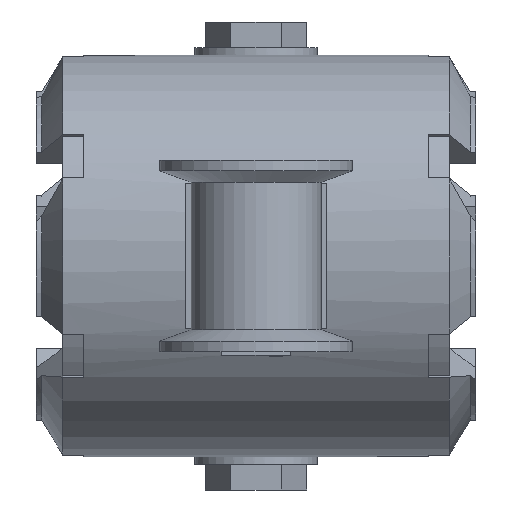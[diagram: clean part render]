
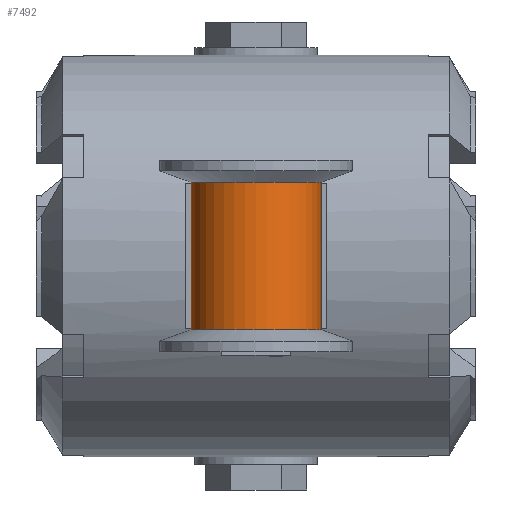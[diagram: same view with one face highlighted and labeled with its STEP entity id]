
A CAD part, front view. The second image highlights one B-rep face of the part: STEP entity #7492.
In plain terms, the highlighted cylindrical face has radius 17 mm (diameter 34 mm), a full revolution.
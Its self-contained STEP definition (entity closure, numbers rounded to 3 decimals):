
#756=CIRCLE('',#26892,17.);
#757=CIRCLE('',#26893,17.);
#3062=LINE('',#44266,#5847);
#3063=LINE('',#44268,#5848);
#3064=LINE('',#44281,#5849);
#5847=VECTOR('',#31697,1.);
#5848=VECTOR('',#31698,1.);
#5849=VECTOR('',#31699,1.);
#5950=CYLINDRICAL_SURFACE('',#26894,17.);
#6140=FACE_BOUND('',#10954,.T.);
#6141=FACE_BOUND('',#10955,.T.);
#6142=FACE_BOUND('',#10956,.T.);
#7492=ADVANCED_FACE('',(#6140,#6141,#6142),#5950,.T.);
#10954=EDGE_LOOP('',(#18119,#18120,#18121,#18122,#18123,#18124));
#10955=EDGE_LOOP('',(#18125));
#10956=EDGE_LOOP('',(#18126));
#18119=ORIENTED_EDGE('',*,*,#24230,.F.);
#18120=ORIENTED_EDGE('',*,*,#24212,.T.);
#18121=ORIENTED_EDGE('',*,*,#24231,.F.);
#18122=ORIENTED_EDGE('',*,*,#24232,.F.);
#18123=ORIENTED_EDGE('',*,*,#24233,.F.);
#18124=ORIENTED_EDGE('',*,*,#24234,.F.);
#18125=ORIENTED_EDGE('',*,*,#24235,.T.);
#18126=ORIENTED_EDGE('',*,*,#24236,.T.);
#20615=VERTEX_POINT('',#44185);
#20616=VERTEX_POINT('',#44190);
#20633=VERTEX_POINT('',#44267);
#20634=VERTEX_POINT('',#44269);
#20635=VERTEX_POINT('',#44280);
#20636=VERTEX_POINT('',#44282);
#20637=VERTEX_POINT('',#44294);
#20638=VERTEX_POINT('',#44296);
#24212=EDGE_CURVE('',#20616,#20615,#25885,.T.);
#24230=EDGE_CURVE('',#20616,#20633,#3062,.T.);
#24231=EDGE_CURVE('',#20634,#20615,#3063,.T.);
#24232=EDGE_CURVE('',#20635,#20634,#25891,.T.);
#24233=EDGE_CURVE('',#20636,#20635,#3064,.T.);
#24234=EDGE_CURVE('',#20633,#20636,#25892,.T.);
#24235=EDGE_CURVE('',#20637,#20637,#756,.T.);
#24236=EDGE_CURVE('',#20638,#20638,#757,.T.);
#25885=B_SPLINE_CURVE_WITH_KNOTS('',3,(#44186,#44187,#44188,#44189),
 .UNSPECIFIED.,.F.,.F.,(4,4),(0.,1.),.UNSPECIFIED.);
#25891=B_SPLINE_CURVE_WITH_KNOTS('',3,(#44270,#44271,#44272,#44273,#44274,
#44275,#44276,#44277,#44278,#44279),.UNSPECIFIED.,.F.,.F.,(4,2,2,2,4),(0.,
0.25,0.5,0.75,1.),.UNSPECIFIED.);
#25892=B_SPLINE_CURVE_WITH_KNOTS('',3,(#44283,#44284,#44285,#44286,#44287,
#44288,#44289,#44290,#44291,#44292),.UNSPECIFIED.,.F.,.F.,(4,2,2,2,4),(0.,
0.25,0.5,0.75,1.),.UNSPECIFIED.);
#26892=AXIS2_PLACEMENT_3D('',#44293,#31700,#31701);
#26893=AXIS2_PLACEMENT_3D('',#44295,#31702,#31703);
#26894=AXIS2_PLACEMENT_3D('',#44297,#31704,#31705);
#31697=DIRECTION('',(0.,0.,1.));
#31698=DIRECTION('',(0.,0.,1.));
#31699=DIRECTION('',(0.,0.,-1.));
#31700=DIRECTION('',(0.,0.,1.));
#31701=DIRECTION('',(-1.,0.,0.));
#31702=DIRECTION('',(0.,0.,-1.));
#31703=DIRECTION('',(1.,0.,0.));
#31704=DIRECTION('',(0.,0.,-1.));
#31705=DIRECTION('',(1.,0.,0.));
#44185=CARTESIAN_POINT('',(-7.984,6.5,-0.5));
#44186=CARTESIAN_POINT('',(-7.984,6.5,0.5));
#44187=CARTESIAN_POINT('',(-7.998,6.493,0.167));
#44188=CARTESIAN_POINT('',(-7.998,6.493,-0.167));
#44189=CARTESIAN_POINT('',(-7.984,6.5,-0.5));
#44190=CARTESIAN_POINT('',(-7.984,6.5,0.5));
#44266=CARTESIAN_POINT('',(-7.984,6.5,56.5));
#44267=CARTESIAN_POINT('',(-7.984,6.5,8.897));
#44268=CARTESIAN_POINT('',(-7.984,6.5,56.5));
#44269=CARTESIAN_POINT('',(-7.984,6.5,-8.897));
#44270=CARTESIAN_POINT('',(8.016,6.5,-8.868));
#44271=CARTESIAN_POINT('',(7.046,7.017,-9.998));
#44272=CARTESIAN_POINT('',(5.899,7.513,-10.926));
#44273=CARTESIAN_POINT('',(3.155,8.268,-12.291));
#44274=CARTESIAN_POINT('',(1.602,8.497,-12.675));
#44275=CARTESIAN_POINT('',(-1.513,8.503,-12.688));
#44276=CARTESIAN_POINT('',(-3.079,8.277,-12.313));
#44277=CARTESIAN_POINT('',(-5.829,7.527,-10.969));
#44278=CARTESIAN_POINT('',(-7.01,7.02,-10.026));
#44279=CARTESIAN_POINT('',(-7.984,6.5,-8.897));
#44280=CARTESIAN_POINT('',(8.016,6.5,-8.868));
#44281=CARTESIAN_POINT('',(8.016,6.5,56.5));
#44282=CARTESIAN_POINT('',(8.016,6.5,8.868));
#44283=CARTESIAN_POINT('',(-7.984,6.5,8.897));
#44284=CARTESIAN_POINT('',(-7.012,7.019,10.023));
#44285=CARTESIAN_POINT('',(-5.862,7.515,10.947));
#44286=CARTESIAN_POINT('',(-3.113,8.27,12.303));
#44287=CARTESIAN_POINT('',(-1.559,8.498,12.681));
#44288=CARTESIAN_POINT('',(1.556,8.502,12.683));
#44289=CARTESIAN_POINT('',(3.121,8.274,12.302));
#44290=CARTESIAN_POINT('',(5.866,7.525,10.948));
#44291=CARTESIAN_POINT('',(7.044,7.018,10.001));
#44292=CARTESIAN_POINT('',(8.016,6.5,8.868));
#44293=CARTESIAN_POINT('',(0.016,-8.5,-19.297));
#44294=CARTESIAN_POINT('',(-16.984,-8.5,-19.297));
#44295=CARTESIAN_POINT('',(0.016,-8.5,19.297));
#44296=CARTESIAN_POINT('',(17.016,-8.5,19.297));
#44297=CARTESIAN_POINT('',(0.016,-8.5,56.5));
